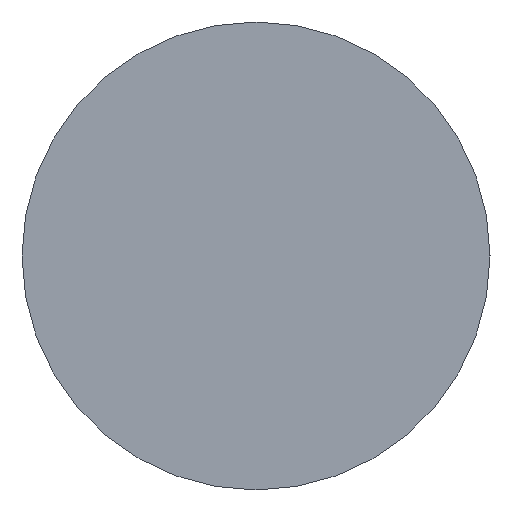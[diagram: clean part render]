
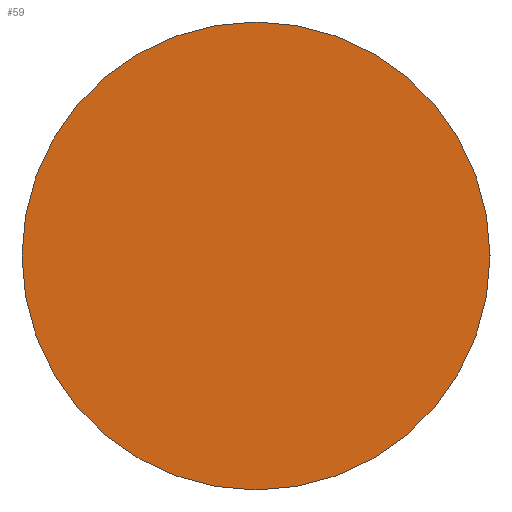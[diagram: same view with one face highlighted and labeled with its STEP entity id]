
A CAD part, left-side view. The second image highlights one B-rep face of the part: STEP entity #59.
In plain terms, the highlighted planar face has unit normal (-1, 0, 0).
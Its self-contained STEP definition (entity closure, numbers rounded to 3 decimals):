
#31 = VERTEX_POINT('',#32);
#32 = CARTESIAN_POINT('',(-1.27,0.,0.25));
#38 = EDGE_CURVE('',#31,#31,#39,.T.);
#39 = CIRCLE('',#40,0.25);
#40 = AXIS2_PLACEMENT_3D('',#41,#42,#43);
#41 = CARTESIAN_POINT('',(-1.27,0.,0.));
#42 = DIRECTION('',(1.,0.,0.));
#43 = DIRECTION('',(-0.,0.,1.));
#59 = ADVANCED_FACE('',(#60),#63,.F.);
#60 = FACE_BOUND('',#61,.T.);
#61 = EDGE_LOOP('',(#62));
#62 = ORIENTED_EDGE('',*,*,#38,.F.);
#63 = PLANE('',#64);
#64 = AXIS2_PLACEMENT_3D('',#65,#66,#67);
#65 = CARTESIAN_POINT('',(-1.27,0.,0.));
#66 = DIRECTION('',(1.,0.,0.));
#67 = DIRECTION('',(-0.,0.,1.));
